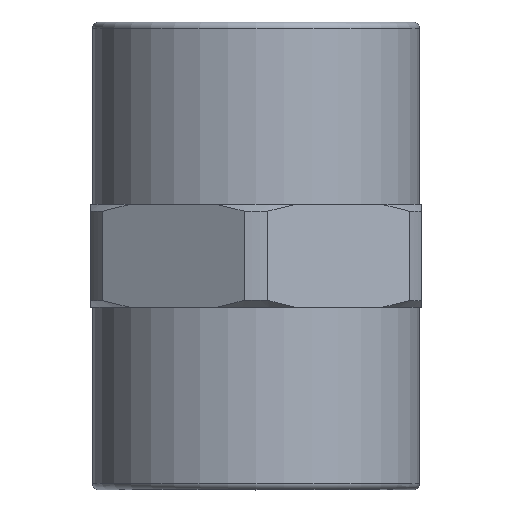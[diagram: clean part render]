
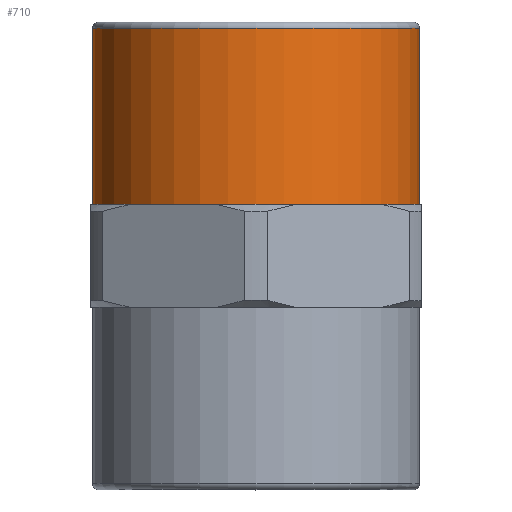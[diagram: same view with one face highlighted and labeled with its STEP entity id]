
A CAD part, top view. The second image highlights one B-rep face of the part: STEP entity #710.
In plain terms, the highlighted cylindrical face has radius 13.335 mm (diameter 26.67 mm), a full revolution.
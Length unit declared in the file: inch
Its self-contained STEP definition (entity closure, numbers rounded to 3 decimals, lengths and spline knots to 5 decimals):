
#31=CYLINDRICAL_SURFACE('',#808,0.525);
#74=CIRCLE('',#802,0.525);
#75=CIRCLE('',#803,0.525);
#76=CIRCLE('',#805,0.525);
#78=CIRCLE('',#807,0.525);
#133=FACE_OUTER_BOUND('',#176,.T.);
#176=EDGE_LOOP('',(#633,#634,#635,#636,#637,#638));
#212=LINE('',#1284,#243);
#243=VECTOR('',#1009,0.525);
#334=VERTEX_POINT('',#1273);
#335=VERTEX_POINT('',#1274);
#336=VERTEX_POINT('',#1278);
#337=VERTEX_POINT('',#1279);
#436=EDGE_CURVE('',#334,#335,#74,.T.);
#437=EDGE_CURVE('',#335,#334,#75,.T.);
#438=EDGE_CURVE('',#336,#337,#76,.T.);
#440=EDGE_CURVE('',#337,#336,#78,.T.);
#441=EDGE_CURVE('',#335,#337,#212,.T.);
#633=ORIENTED_EDGE('',*,*,#436,.F.);
#634=ORIENTED_EDGE('',*,*,#437,.F.);
#635=ORIENTED_EDGE('',*,*,#441,.T.);
#636=ORIENTED_EDGE('',*,*,#438,.F.);
#637=ORIENTED_EDGE('',*,*,#440,.F.);
#638=ORIENTED_EDGE('',*,*,#441,.F.);
#710=ADVANCED_FACE('',(#133),#31,.T.);
#802=AXIS2_PLACEMENT_3D('',#1275,#995,#996);
#803=AXIS2_PLACEMENT_3D('',#1276,#997,#998);
#805=AXIS2_PLACEMENT_3D('',#1280,#1001,#1002);
#807=AXIS2_PLACEMENT_3D('',#1282,#1005,#1006);
#808=AXIS2_PLACEMENT_3D('',#1283,#1007,#1008);
#995=DIRECTION('center_axis',(0.,-1.,0.));
#996=DIRECTION('ref_axis',(1.,0.,0.));
#997=DIRECTION('center_axis',(0.,-1.,0.));
#998=DIRECTION('ref_axis',(1.,0.,0.));
#1001=DIRECTION('center_axis',(0.,1.,0.));
#1002=DIRECTION('ref_axis',(0.,0.,1.));
#1005=DIRECTION('center_axis',(0.,1.,0.));
#1006=DIRECTION('ref_axis',(0.,0.,1.));
#1007=DIRECTION('center_axis',(0.,-1.,0.));
#1008=DIRECTION('ref_axis',(0.,0.,-1.));
#1009=DIRECTION('',(0.,1.,0.));
#1273=CARTESIAN_POINT('',(0.,0.915,-0.525));
#1274=CARTESIAN_POINT('',(0.,0.915,0.525));
#1275=CARTESIAN_POINT('Origin',(0.,0.915,0.));
#1276=CARTESIAN_POINT('Origin',(0.,0.915,0.));
#1278=CARTESIAN_POINT('',(0.,1.48,-0.525));
#1279=CARTESIAN_POINT('',(0.,1.48,0.525));
#1280=CARTESIAN_POINT('Origin',(0.,1.48,0.));
#1282=CARTESIAN_POINT('Origin',(0.,1.48,0.));
#1283=CARTESIAN_POINT('Origin',(0.,1.2075,0.));
#1284=CARTESIAN_POINT('',(0.,1.2075,0.525));
